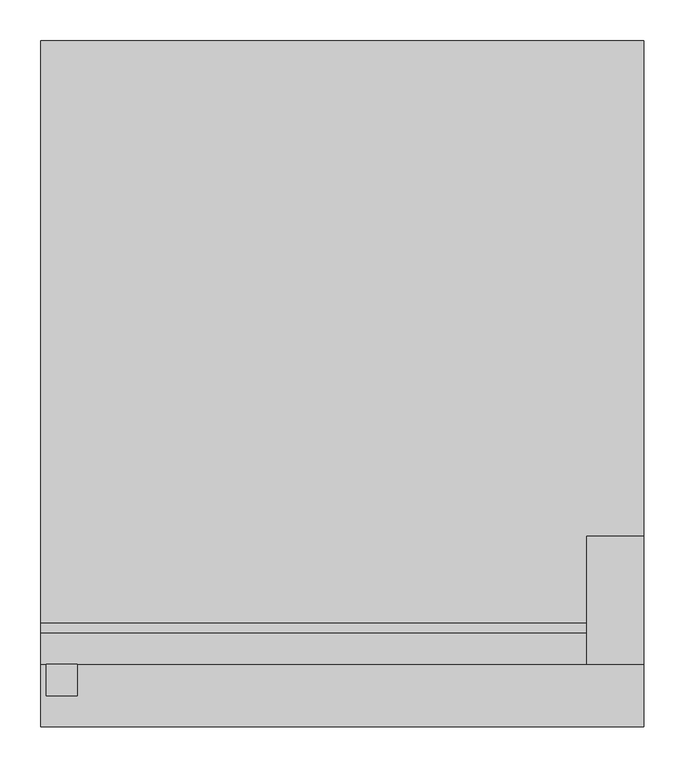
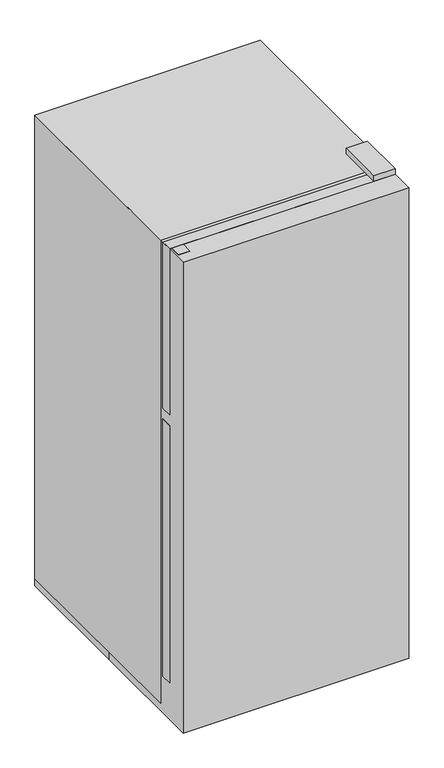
"""IFC4 building model written with IfcOpenShell, lengths in millimetres: proxy geometry, R7000 - Refrigerator, 14 Cubic Feet : R7000 - Refrigerator, 14 Cubic Feet."""

from ifc_helpers import new_model, si_unit, point, frame, frame_2d, origin, origin_with_axes, place, context, project, spatial, polyline, circle_curve, trimmed, segment, composite_curve, outline, extrude, source, transform, mapped, element, save


def specialty_equipment_021a704d(model_context):
    return source(origin(), model_context, "Body", "SweptSolid", [
        extrude(outline(polyline([(-381.0, 1016.0), (-342.9, 1016.0), (-342.9, 1001.1256358), (-368.3159299, 1001.1256358), (-368.3159299, 457.3433737), (-342.9, 457.3433737), (-342.9, 443.3974927), (-381.0, 443.3974927), (-381.0, 1016.0)])), frame((-361.95, 0.0, 0.0), z_axis=(1.0, 0.0, 0.0), x_axis=(0.0, 1.0, 0.0)), (0.0, 0.0, 1.0), 38.1),
        extrude(outline(polyline([(-381.0, 1625.6), (-342.9, 1625.6), (-342.9, 1610.7256358), (-368.3159299, 1610.7256358), (-368.3159299, 1066.9433737), (-342.9, 1066.9433737), (-342.9, 1052.9974927), (-381.0, 1052.9974927), (-381.0, 1625.6)])), frame((-361.95, 0.0, 0.0), z_axis=(1.0, 0.0, 0.0), x_axis=(0.0, 1.0, 0.0)), (0.0, 0.0, 1.0), 38.1),
        extrude(outline(polyline([(368.3, -342.9), (291.9130819, -342.9), (291.9130819, -292.1), (368.3, -292.1), (368.3, -342.9)])), frame((0.0, 0.0, 107.8907444), z_axis=(0.0, 0.0, 1.0), x_axis=(1.0, 0.0, 0.0)), (0.0, 0.0, 1.0), 19.05),
        extrude(outline(polyline([(368.3, -342.9), (292.8726256, -342.9), (292.8726256, -292.1), (368.3, -292.1), (368.3, -342.9)])), frame((0.0, 0.0, 1015.9039339), z_axis=(0.0, 0.0, 1.0), x_axis=(1.0, 0.0, 0.0)), (0.0, 0.0, 1.0), 37.0935588),
        extrude(outline(polyline([(304.8, -292.1), (304.8, -311.15), (-304.8, -311.15), (-304.8, -292.1), (304.8, -292.1)])), frame((0.0, 0.0, 25.4), z_axis=(0.0, 0.0, 1.0), x_axis=(1.0, 0.0, 0.0)), (0.0, 0.0, 1.0), 82.55),
        extrude(outline(polyline([(368.3, -342.9), (298.45, -342.9), (298.45, -186.0315495), (368.3, -186.0315495), (368.3, -342.9)])), frame((0.0, 0.0, 1625.6581185), z_axis=(0.0, 0.0, 1.0), x_axis=(1.0, 0.0, 0.0)), (0.0, 0.0, 1.0), 19.05),
        extrude(outline(polyline([(355.6, -304.8), (-355.6, -304.8), (-355.6, -292.1), (355.6, -292.1), (355.6, -304.8)])), frame((0.0, 0.0, 1062.6629034), z_axis=(0.0, 0.0, 1.0), x_axis=(1.0, 0.0, 0.0)), (0.0, 0.0, 1.0), 548.0627325),
        extrude(outline(polyline([(368.3, -342.9), (-368.3, -342.9), (-368.3, -304.8), (368.3, -304.8), (368.3, -342.9)])), frame((0.0, 0.0, 1052.9974927), z_axis=(0.0, 0.0, 1.0), x_axis=(1.0, 0.0, 0.0)), (0.0, 0.0, 1.0), 572.6025073),
        extrude(outline(polyline([(355.6, -304.8), (-355.6, -304.8), (-355.6, -292.1), (355.6, -292.1), (355.6, -304.8)])), frame((0.0, 0.0, 149.0357475), z_axis=(0.0, 0.0, 1.0), x_axis=(1.0, 0.0, 0.0)), (0.0, 0.0, 1.0), 855.7147074),
        extrude(outline(polyline([(368.3, -342.9), (-368.3, -342.9), (-368.3, -304.8), (368.3, -304.8), (368.3, -342.9)])), frame((0.0, 0.0, 126.9407444), z_axis=(0.0, 0.0, 1.0), x_axis=(1.0, 0.0, 0.0)), (0.0, 0.0, 1.0), 888.9631895),
        extrude(outline(polyline([(368.3, 419.1), (368.3, -292.1), (-368.3, -292.1), (-368.3, 419.1), (368.3, 419.1)])), frame((0.0, 0.0, 25.4), z_axis=(0.0, 0.0, 1.0), x_axis=(1.0, 0.0, 0.0)), (0.0, 0.0, 1.0), 1600.2),
        extrude(outline(composite_curve([segment(trimmed(circle_curve(frame_2d((-295.1775617, -224.3320241)), 31.75), [point((-263.4275617, -224.3320241))], [point((-326.9275617, -224.3320241))], False, "CARTESIAN"), True, "CONTINUOUS"), segment(trimmed(circle_curve(frame_2d((-295.1775617, -224.3320241)), 31.75), [point((-326.9275617, -224.3320241))], [point((-263.4275617, -224.3320241))], False, "CARTESIAN"), True, "CONTINUOUS")], self_intersect=False)), origin_with_axes(), (0.0, 0.0, 1.0), 25.4),
        extrude(outline(composite_curve([segment(trimmed(circle_curve(frame_2d((295.1775617, -224.3320241)), 31.75), [point((263.4275617, -224.3320241))], [point((326.9275617, -224.3320241))], False, "CARTESIAN"), True, "CONTINUOUS"), segment(trimmed(circle_curve(frame_2d((295.1775617, -224.3320241)), 31.75), [point((326.9275617, -224.3320241))], [point((263.4275617, -224.3320241))], False, "CARTESIAN"), True, "CONTINUOUS")], self_intersect=False)), origin_with_axes(), (0.0, 0.0, 1.0), 25.4),
        extrude(outline(composite_curve([segment(trimmed(circle_curve(frame_2d((-295.1775617, 353.5179759)), 31.75), [point((-263.4275617, 353.5179759))], [point((-326.9275617, 353.5179759))], False, "CARTESIAN"), True, "CONTINUOUS"), segment(trimmed(circle_curve(frame_2d((-295.1775617, 353.5179759)), 31.75), [point((-326.9275617, 353.5179759))], [point((-263.4275617, 353.5179759))], False, "CARTESIAN"), True, "CONTINUOUS")], self_intersect=False)), origin_with_axes(), (0.0, 0.0, 1.0), 25.4),
        extrude(outline(composite_curve([segment(trimmed(circle_curve(frame_2d((295.1775617, 353.5179759)), 31.75), [point((263.4275617, 353.5179759))], [point((326.9275617, 353.5179759))], False, "CARTESIAN"), True, "CONTINUOUS"), segment(trimmed(circle_curve(frame_2d((295.1775617, 353.5179759)), 31.75), [point((326.9275617, 353.5179759))], [point((263.4275617, 353.5179759))], False, "CARTESIAN"), True, "CONTINUOUS")], self_intersect=False)), origin_with_axes(), (0.0, 0.0, 1.0), 25.4),
        extrude(outline(polyline([(-368.3, 419.1), (368.3, 419.1), (368.3, -419.1), (-368.3, -419.1), (-368.3, 0.0), (-368.3, 419.1)])), origin_with_axes(), (0.0, 0.0, 1.0), 1625.6),
    ])


if __name__ == "__main__":
    model = new_model("IFC4")
    model_context = context("Model", 3, world=origin())
    ifc_project = project(units=[si_unit("LENGTHUNIT", "METRE", prefix="MILLI")], contexts=[model_context])
    site = spatial("IfcSite", under=ifc_project)
    building = spatial("IfcBuilding", under=site)
    placement = place(None, origin())
    specialty_equipment_shape = specialty_equipment_021a704d(model_context)
    element("IfcBuildingElementProxy", 1, Name="R7000 - Refrigerator, 14 Cubic Feet : R7000 - Refrigerator, 14 Cubic Feet", ObjectType="R7000 - Refrigerator, 14 Cubic Feet : R7000 - Refrigerator, 14 Cubic Feet", at=placement, inside=building, context=model_context, shape_type="MappedRepresentation", body=[
        mapped(specialty_equipment_shape, transform((0.0, 0.0, 0.0), x_axis=(1.0, 0.0, 0.0), y_axis=(0.0, 1.0, 0.0), z_axis=(0.0, 0.0, 1.0))),
    ])
    save(model, "model.ifc")
